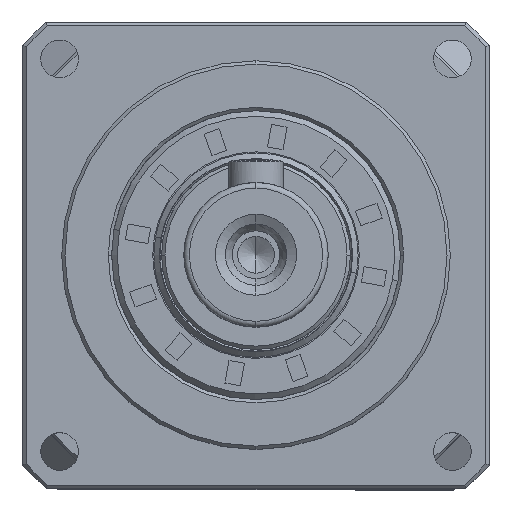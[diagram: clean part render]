
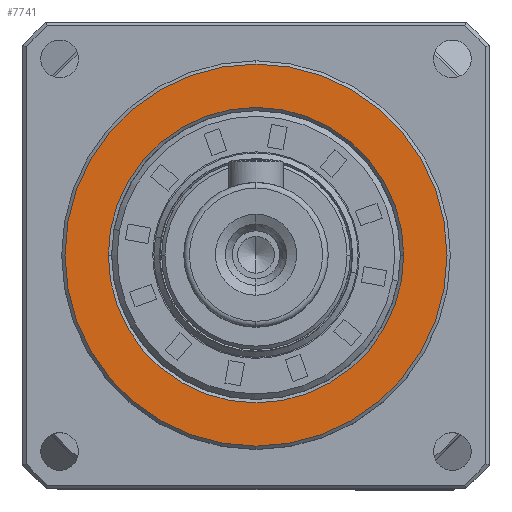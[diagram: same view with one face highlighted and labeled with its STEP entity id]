
A CAD part, top view. The second image highlights one B-rep face of the part: STEP entity #7741.
In plain terms, the highlighted planar face has unit normal (0, 0, 1).
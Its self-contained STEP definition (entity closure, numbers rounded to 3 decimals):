
#202 = DIRECTION ( 'NONE',  ( 0., 0., -1. ) ) ;
#941 = VERTEX_POINT ( 'NONE', #19523 ) ;
#1412 = CARTESIAN_POINT ( 'NONE',  ( 48.345, 30.778, 66.422 ) ) ;
#3043 = AXIS2_PLACEMENT_3D ( 'NONE', #36389, #202, #42444 ) ;
#4483 = EDGE_LOOP ( 'NONE', ( #20359, #74965 ) ) ;
#4846 = EDGE_CURVE ( 'NONE', #69042, #61814, #68156, .T. ) ;
#5917 = CARTESIAN_POINT ( 'NONE',  ( 48.345, 30.778, 66.422 ) ) ;
#6744 = CIRCLE ( 'NONE', #41593, 13.3 ) ;
#7494 = DIRECTION ( 'NONE',  ( 1., 0., 0. ) ) ;
#7741 = ADVANCED_FACE ( 'NONE', ( #27134, #59264 ), #55556, .T. ) ;
#9265 = ORIENTED_EDGE ( 'NONE', *, *, #54891, .T. ) ;
#10473 = EDGE_CURVE ( 'NONE', #61814, #69042, #26804, .T. ) ;
#12018 = DIRECTION ( 'NONE',  ( 1., 0., 0. ) ) ;
#14312 = EDGE_LOOP ( 'NONE', ( #27515, #9265 ) ) ;
#15549 = CARTESIAN_POINT ( 'NONE',  ( 48.345, 47.978, 66.422 ) ) ;
#19523 = CARTESIAN_POINT ( 'NONE',  ( 61.645, 30.778, 66.422 ) ) ;
#20359 = ORIENTED_EDGE ( 'NONE', *, *, #10473, .F. ) ;
#23794 = CARTESIAN_POINT ( 'NONE',  ( 48.345, 13.578, 66.422 ) ) ;
#24352 = EDGE_CURVE ( 'NONE', #941, #77519, #6744, .T. ) ;
#24965 = CARTESIAN_POINT ( 'NONE',  ( 48.345, 30.778, 66.422 ) ) ;
#25288 = CIRCLE ( 'NONE', #59013, 13.3 ) ;
#26804 = CIRCLE ( 'NONE', #3043, 17.2 ) ;
#27134 = FACE_OUTER_BOUND ( 'NONE', #4483, .T. ) ;
#27515 = ORIENTED_EDGE ( 'NONE', *, *, #24352, .T. ) ;
#31049 = DIRECTION ( 'NONE',  ( 1., 0., 0. ) ) ;
#34113 = DIRECTION ( 'NONE',  ( 0., 0., -1. ) ) ;
#35411 = AXIS2_PLACEMENT_3D ( 'NONE', #70301, #34113, #76370 ) ;
#36389 = CARTESIAN_POINT ( 'NONE',  ( 48.345, 30.778, 66.422 ) ) ;
#41593 = AXIS2_PLACEMENT_3D ( 'NONE', #24965, #67217, #31049 ) ;
#42444 = DIRECTION ( 'NONE',  ( 0., 1., 0. ) ) ;
#43637 = DIRECTION ( 'NONE',  ( 0., 0., 1. ) ) ;
#48196 = DIRECTION ( 'NONE',  ( 0., 0., -1. ) ) ;
#54204 = CARTESIAN_POINT ( 'NONE',  ( 35.045, 30.778, 66.422 ) ) ;
#54891 = EDGE_CURVE ( 'NONE', #77519, #941, #25288, .T. ) ;
#55459 = AXIS2_PLACEMENT_3D ( 'NONE', #1412, #43637, #7494 ) ;
#55556 = PLANE ( 'NONE',  #55459 ) ;
#59013 = AXIS2_PLACEMENT_3D ( 'NONE', #5917, #48196, #12018 ) ;
#59264 = FACE_BOUND ( 'NONE', #14312, .T. ) ;
#61814 = VERTEX_POINT ( 'NONE', #15549 ) ;
#67217 = DIRECTION ( 'NONE',  ( 0., 0., -1. ) ) ;
#68156 = CIRCLE ( 'NONE', #35411, 17.2 ) ;
#69042 = VERTEX_POINT ( 'NONE', #23794 ) ;
#70301 = CARTESIAN_POINT ( 'NONE',  ( 48.345, 30.778, 66.422 ) ) ;
#74965 = ORIENTED_EDGE ( 'NONE', *, *, #4846, .F. ) ;
#76370 = DIRECTION ( 'NONE',  ( 0., 1., 0. ) ) ;
#77519 = VERTEX_POINT ( 'NONE', #54204 ) ;
